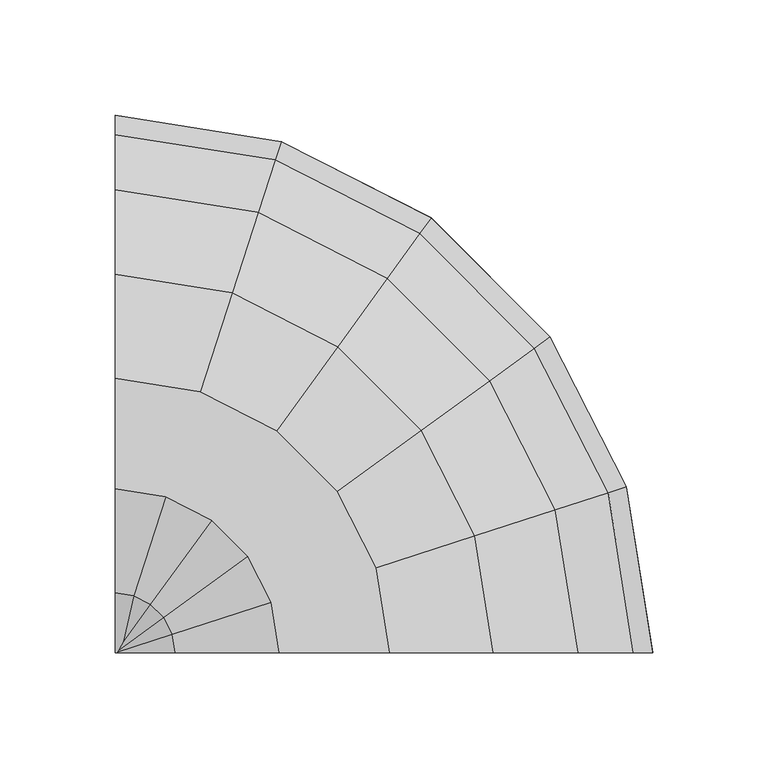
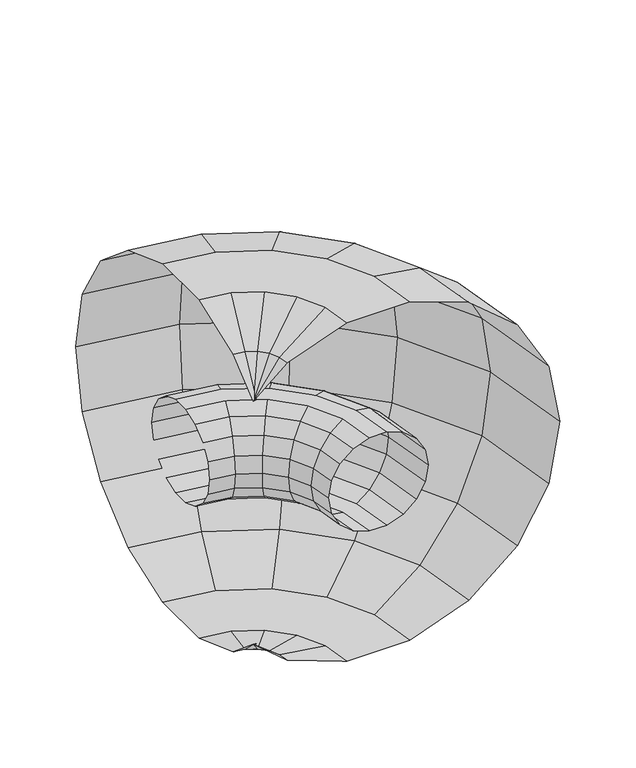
"""IFC4 building model written with IfcOpenShell, lengths in millimetres: proxy geometry, Rohrbogen 347619 : Rohrbogen 347619."""

from ifc_helpers import new_model, si_unit, origin, place, context, project, spatial, triangles, source, transform, mapped, element, save


def generic_models_42b81b73(model_context):
    return source(origin(), model_context, "Body", "Tessellation", [
        triangles([(29865.1282288, 10441.2580261, 2314.0000351), (29865.1282288, 10438.9639801, 2327.013921), (29905.5327393, 10432.5643707, 2327.013921), (29906.2419983, 10434.7467957, 2314.0000351), (29941.9840027, 10413.9910858, 2327.013921), (29943.3327576, 10415.8479492, 2314.0000351), (29970.910144, 10385.0649445, 2327.013921), (29972.7681702, 10386.4136993, 2314.0000351), (29989.483429, 10348.613681, 2327.013921), (29991.6670166, 10349.3229401, 2314.0000351), (29995.8830383, 10308.2080078, 2327.013921), (29998.1782471, 10308.2080078, 2314.0000351), (29865.1282288, 10432.3562439, 2338.4581352), (29903.4910034, 10426.2798706, 2338.4581352), (29938.1005188, 10408.6460632, 2338.4581352), (29965.5662842, 10381.1802979, 2338.4581352), (29983.2000916, 10346.5719452, 2338.4581352), (29989.2764648, 10308.2080078, 2338.4581352), (29865.1282288, 10422.233606, 2346.9522388), (29900.3632874, 10416.6525513, 2346.9522388), (29932.1497192, 10400.4570282, 2346.9522388), (29957.3760864, 10375.230661, 2346.9522388), (29973.5727722, 10343.4442291, 2346.9522388), (29979.1538269, 10308.2080078, 2346.9522388), (29865.1282288, 10409.8157593, 2351.4718758), (29896.5263123, 10404.842807, 2351.4718758), (29924.8501648, 10390.409967, 2351.4718758), (29947.330188, 10367.9311066, 2351.4718758), (29961.7618652, 10339.607254, 2351.4718758), (29966.7359802, 10308.2080078, 2351.4718758), (29865.1282288, 10396.6014496, 2351.4718758), (29892.4428406, 10392.2749695, 2351.4718758), (29917.083197, 10379.7199219, 2351.4718758), (29936.6401428, 10360.1641388, 2351.4718758), (29949.1951904, 10335.5237823, 2351.4718758), (29953.5205078, 10308.2080078, 2351.4718758), (29865.1282288, 10384.1836029, 2346.9522388), (29888.6058655, 10380.4652252, 2346.9522388), (29909.785968, 10369.6740234, 2346.9522388), (29926.5919189, 10352.8657471, 2346.9522388), (29937.3842834, 10331.6856445, 2346.9522388), (29941.1026611, 10308.2080078, 2346.9522388), (29865.1282288, 10374.060965, 2338.4581352), (29885.4781494, 10370.8379059, 2338.4581352), (29903.8351685, 10361.4838257, 2338.4581352), (29918.4040466, 10346.9149475, 2338.4581352), (29927.7569641, 10328.5579285, 2338.4581352), (29930.9800232, 10308.2080078, 2338.4581352), (29865.1282288, 10367.4532288, 2327.013921), (29883.4364136, 10364.5534058, 2327.013921), (29899.9516846, 10356.1388031, 2327.013921), (29913.0578613, 10343.0314636, 2327.013921), (29921.4736267, 10326.5161926, 2327.013921), (29924.3734497, 10308.2080078, 2327.013921), (29865.1282288, 10365.15802, 2314.0000351), (29882.7271545, 10362.3709808, 2314.0000351), (29898.6029297, 10354.2819397, 2314.0000351), (29911.2021606, 10341.6827087, 2314.0000351), (29919.2900391, 10325.8069336, 2314.0000351), (29922.078241, 10308.2080078, 2314.0000351), (29865.1282288, 10367.4532288, 2300.9861492), (29883.4364136, 10364.5534058, 2300.9861492), (29899.9516846, 10356.1388031, 2300.9861492), (29913.0578613, 10343.0314636, 2300.9861492), (29921.4736267, 10326.5161926, 2300.9861492), (29924.3734497, 10308.2080078, 2300.9861492), (29865.1282288, 10374.060965, 2289.541935), (29885.4781494, 10370.8379059, 2289.541935), (29903.8351685, 10361.4838257, 2289.541935), (29918.4040466, 10346.9149475, 2289.541935), (29927.7569641, 10328.5579285, 2289.541935), (29930.9800232, 10308.2080078, 2289.541935), (29865.1282288, 10384.1836029, 2281.047686), (29888.6058655, 10380.4652252, 2281.047686), (29909.785968, 10369.6740234, 2281.047686), (29926.5919189, 10352.8657471, 2281.047686), (29937.3842834, 10331.6856445, 2281.047686), (29941.1026611, 10308.2080078, 2281.047686), (29865.1282288, 10396.6014496, 2276.5280491), (29892.4428406, 10392.2749695, 2276.5280491), (29917.083197, 10379.7199219, 2276.5280491), (29936.6401428, 10360.1641388, 2276.5280491), (29949.1951904, 10335.5237823, 2276.5280491), (29953.5205078, 10308.2080078, 2276.5280491), (29865.1282288, 10409.8157593, 2276.5280491), (29896.5263123, 10404.842807, 2276.5280491), (29924.8501648, 10390.409967, 2276.5280491), (29947.330188, 10367.9311066, 2276.5280491), (29961.7618652, 10339.607254, 2276.5280491), (29966.7359802, 10308.2080078, 2276.5280491), (29865.1282288, 10422.233606, 2281.047686), (29900.3632874, 10416.6525513, 2281.047686), (29932.1497192, 10400.4570282, 2281.047686), (29957.3760864, 10375.230661, 2281.047686), (29973.5727722, 10343.4442291, 2281.047686), (29979.1538269, 10308.2080078, 2281.047686), (29865.1282288, 10432.3562439, 2289.541935), (29903.4910034, 10426.2798706, 2289.541935), (29938.1005188, 10408.6460632, 2289.541935), (29965.5662842, 10381.1802979, 2289.541935), (29983.2000916, 10346.5719452, 2289.541935), (29989.2764648, 10308.2080078, 2289.541935), (29865.1282288, 10438.9639801, 2300.9861492), (29905.5327393, 10432.5643707, 2300.9861492), (29941.9840027, 10413.9910858, 2300.9861492), (29970.910144, 10385.0649445, 2300.9861492), (29989.483429, 10348.613681, 2300.9861492), (29995.8830383, 10308.2080078, 2300.9861492), (29865.1282288, 10541.2588989, 2314.0000351), (29865.1282288, 10532.932663, 2361.2159031), (29934.5728271, 10521.9344971, 2361.2159031), (29937.1447632, 10529.8526184, 2314.0000351), (29997.2178406, 10490.0143524, 2361.2159031), (30002.1105652, 10496.7499878, 2314.0000351), (30046.9334106, 10440.2976196, 2361.2159031), (30053.6702087, 10445.191507, 2314.0000351), (30078.854718, 10377.6526062, 2361.2159031), (30086.7728394, 10380.2245422, 2314.0000351), (30089.8517212, 10308.2080078, 2361.2159031), (30098.1791199, 10308.2080078, 2314.0000351), (29865.1282288, 10508.9608704, 2402.7367699), (29927.1639771, 10499.134726, 2402.7367699), (29983.1280029, 10470.6201874, 2402.7367699), (30027.5392456, 10426.207782, 2402.7367699), (30056.0537842, 10370.2437561, 2402.7367699), (30065.8810913, 10308.2080078, 2402.7367699), (29865.1282288, 10472.2328796, 2433.5548016), (29915.8135071, 10464.2054626, 2433.5548016), (29961.538623, 10440.9068848, 2433.5548016), (29997.8271057, 10404.6195648, 2433.5548016), (30021.1256836, 10358.8944489, 2433.5548016), (30029.1531006, 10308.2080078, 2433.5548016), (29865.1282288, 10427.1809784, 2449.9527832), (29901.8934265, 10421.358078, 2449.9527832), (29935.058844, 10404.4591095, 2449.9527832), (29961.3781677, 10378.138623, 2449.9527832), (29978.2771362, 10344.9732056, 2449.9527832), (29984.1000366, 10308.2080078, 2449.9527832), (29865.1282288, 10379.2362305, 2449.9527832), (29887.0757263, 10375.7596985, 2449.9527832), (29906.8768433, 10365.6707794, 2449.9527832), (29922.5898376, 10349.957785, 2449.9527832), (29932.6799194, 10330.1566681, 2449.9527832), (29936.1564514, 10308.2080078, 2449.9527832), (29865.1282288, 10334.1831665, 2433.5548016), (29873.1556458, 10332.9123138, 2433.5548016), (29880.3947388, 10329.2230042, 2433.5548016), (29886.1432251, 10323.4756805, 2433.5548016), (29889.8313721, 10316.2354248, 2433.5548016), (29891.1033875, 10308.2080078, 2433.5548016), (29865.1282288, 10308.2080078, 2411.7590389), (29867.5629639, 10308.2080078, 2412.0825657), (29867.5629639, 10308.2080078, 2215.9175045), (29873.1556458, 10332.9123138, 2194.4451233), (29865.1282288, 10308.2080078, 2216.2410313), (29865.1282288, 10334.1831665, 2194.4451233), (29880.3947388, 10329.2230042, 2194.4451233), (29886.1432251, 10323.4756805, 2194.4451233), (29889.8313721, 10316.2354248, 2194.4451233), (29891.1033875, 10308.2080078, 2194.4451233), (29865.1282288, 10379.2362305, 2178.047287), (29887.0757263, 10375.7596985, 2178.047287), (29906.8768433, 10365.6707794, 2178.047287), (29922.5898376, 10349.957785, 2178.047287), (29932.6799194, 10330.1566681, 2178.047287), (29936.1564514, 10308.2080078, 2178.047287), (29865.1282288, 10427.1809784, 2178.047287), (29901.8934265, 10421.358078, 2178.047287), (29935.058844, 10404.4591095, 2178.047287), (29961.3781677, 10378.138623, 2178.047287), (29978.2771362, 10344.9732056, 2178.047287), (29984.1000366, 10308.2080078, 2178.047287), (29865.1282288, 10472.2328796, 2194.4451233), (29915.8135071, 10464.2054626, 2194.4451233), (29961.538623, 10440.9068848, 2194.4451233), (29997.8271057, 10404.6195648, 2194.4451233), (30021.1256836, 10358.8944489, 2194.4451233), (30029.1531006, 10308.2080078, 2194.4451233), (29865.1282288, 10508.9608704, 2225.263155), (29927.1639771, 10499.134726, 2225.263155), (29983.1280029, 10470.6201874, 2225.263155), (30027.5392456, 10426.207782, 2225.263155), (30056.0537842, 10370.2437561, 2225.263155), (30065.8810913, 10308.2080078, 2225.263155), (29865.1282288, 10532.932663, 2266.7841671), (29934.5728271, 10521.9344971, 2266.7841671), (29997.2178406, 10490.0143524, 2266.7841671), (30046.9334106, 10440.2976196, 2266.7841671), (30078.854718, 10377.6526062, 2266.7841671), (30089.8517212, 10308.2080078, 2266.7841671)], [[4, 1, 3], [2, 3, 1], [6, 4, 5], [3, 5, 4], [8, 6, 5], [5, 7, 8], [10, 8, 7], [7, 9, 10], [12, 10, 9], [9, 11, 12], [3, 2, 13], [13, 14, 3], [5, 3, 14], [14, 15, 5], [7, 5, 15], [15, 16, 7], [9, 7, 17], [16, 17, 7], [11, 9, 18], [17, 18, 9], [14, 13, 19], [19, 20, 14], [15, 14, 21], [20, 21, 14], [16, 15, 22], [21, 22, 15], [17, 16, 22], [22, 23, 17], [18, 17, 23], [23, 24, 18], [20, 19, 26], [25, 26, 19], [21, 20, 27], [26, 27, 20], [22, 21, 28], [27, 28, 21], [23, 22, 29], [28, 29, 22], [24, 23, 30], [29, 30, 23], [26, 25, 31], [31, 32, 26], [27, 26, 32], [32, 33, 27], [28, 27, 33], [33, 34, 28], [29, 28, 35], [34, 35, 28], [30, 29, 36], [35, 36, 29], [32, 31, 37], [37, 38, 32], [33, 32, 38], [38, 39, 33], [34, 33, 39], [39, 40, 34], [35, 34, 41], [40, 41, 34], [36, 35, 42], [41, 42, 35], [38, 37, 43], [43, 44, 38], [39, 38, 45], [44, 45, 38], [40, 39, 46], [45, 46, 39], [41, 40, 46], [46, 47, 41], [42, 41, 47], [47, 48, 42], [44, 43, 50], [49, 50, 43], [45, 44, 50], [50, 51, 45], [46, 45, 51], [51, 52, 46], [47, 46, 53], [52, 53, 46], [48, 47, 54], [53, 54, 47], [50, 49, 55], [55, 56, 50], [51, 50, 57], [56, 57, 50], [52, 51, 57], [57, 58, 52], [53, 52, 58], [58, 59, 53], [54, 53, 59], [59, 60, 54], [56, 55, 62], [61, 62, 55], [57, 56, 63], [62, 63, 56], [58, 57, 64], [63, 64, 57], [59, 58, 65], [64, 65, 58], [60, 59, 65], [65, 66, 60], [62, 61, 68], [67, 68, 61], [63, 62, 68], [68, 69, 63], [64, 63, 70], [69, 70, 63], [65, 64, 71], [70, 71, 64], [66, 65, 71], [71, 72, 66], [68, 67, 73], [73, 74, 68], [69, 68, 74], [74, 75, 69], [70, 69, 76], [75, 76, 69], [71, 70, 77], [76, 77, 70], [72, 71, 78], [77, 78, 71], [74, 73, 79], [79, 80, 74], [75, 74, 81], [80, 81, 74], [76, 75, 82], [81, 82, 75], [77, 76, 82], [82, 83, 77], [78, 77, 83], [83, 84, 78], [80, 79, 86], [85, 86, 79], [81, 80, 87], [86, 87, 80], [82, 81, 88], [87, 88, 81], [83, 82, 89], [88, 89, 82], [84, 83, 90], [89, 90, 83], [86, 85, 92], [91, 92, 85], [87, 86, 92], [92, 93, 87], [88, 87, 93], [93, 94, 88], [89, 88, 94], [94, 95, 89], [90, 89, 95], [95, 96, 90], [92, 91, 98], [97, 98, 91], [93, 92, 99], [98, 99, 92], [94, 93, 99], [99, 100, 94], [95, 94, 101], [100, 101, 94], [96, 95, 102], [101, 102, 95], [98, 97, 103], [103, 104, 98], [99, 98, 104], [104, 105, 99], [100, 99, 105], [105, 106, 100], [101, 100, 106], [106, 107, 101], [102, 101, 107], [107, 108, 102], [104, 103, 4], [1, 4, 103], [105, 104, 6], [4, 6, 104], [106, 105, 8], [6, 8, 105], [107, 106, 10], [8, 10, 106], [108, 107, 12], [10, 12, 107], [112, 109, 110], [110, 111, 112], [114, 112, 111], [111, 113, 114], [116, 114, 115], [113, 115, 114], [118, 116, 117], [115, 117, 116], [120, 118, 119], [117, 119, 118], [111, 110, 122], [121, 122, 110], [113, 111, 123], [122, 123, 111], [115, 113, 123], [123, 124, 115], [117, 115, 124], [124, 125, 117], [119, 117, 126], [125, 126, 117], [122, 121, 127], [127, 128, 122], [123, 122, 128], [128, 129, 123], [124, 123, 129], [129, 130, 124], [125, 124, 131], [130, 131, 124], [126, 125, 132], [131, 132, 125], [128, 127, 134], [133, 134, 127], [129, 128, 135], [134, 135, 128], [130, 129, 135], [135, 136, 130], [131, 130, 137], [136, 137, 130], [132, 131, 138], [137, 138, 131], [134, 133, 139], [139, 140, 134], [135, 134, 140], [140, 141, 135], [136, 135, 142], [141, 142, 135], [137, 136, 143], [142, 143, 136], [138, 137, 143], [143, 144, 138], [140, 139, 145], [145, 146, 140], [141, 140, 146], [146, 147, 141], [142, 141, 148], [147, 148, 141], [143, 142, 148], [148, 149, 143], [144, 143, 150], [149, 150, 143], [151, 146, 152], [151, 152, 145], [146, 145, 152], [147, 146, 151], [148, 147, 151], [149, 148, 151], [150, 149, 151], [155, 153, 154], [156, 154, 153], [153, 155, 156], [154, 157, 155], [155, 157, 158], [158, 159, 155], [159, 160, 155], [154, 156, 162], [161, 162, 156], [157, 154, 163], [162, 163, 154], [158, 157, 163], [163, 164, 158], [159, 158, 165], [164, 165, 158], [160, 159, 166], [165, 166, 159], [162, 161, 168], [167, 168, 161], [163, 162, 169], [168, 169, 162], [164, 163, 170], [169, 170, 163], [165, 164, 170], [170, 171, 165], [166, 165, 172], [171, 172, 165], [168, 167, 174], [173, 174, 167], [169, 168, 174], [174, 175, 169], [170, 169, 175], [175, 176, 170], [171, 170, 176], [176, 177, 171], [172, 171, 177], [177, 178, 172], [174, 173, 180], [179, 180, 173], [175, 174, 181], [180, 181, 174], [176, 175, 182], [181, 182, 175], [177, 176, 182], [182, 183, 177], [178, 177, 184], [183, 184, 177], [180, 179, 186], [185, 186, 179], [181, 180, 187], [186, 187, 180], [182, 181, 188], [187, 188, 181], [183, 182, 188], [188, 189, 183], [184, 183, 190], [189, 190, 183], [186, 185, 112], [109, 112, 185], [187, 186, 112], [112, 114, 187], [188, 187, 114], [114, 116, 188], [189, 188, 116], [116, 118, 189], [190, 189, 118], [118, 120, 190]], closed=False),
    ])


if __name__ == "__main__":
    model = new_model("IFC4")
    model_context = context("Model", 3, world=origin())
    ifc_project = project(units=[si_unit("LENGTHUNIT", "METRE", prefix="MILLI")], contexts=[model_context])
    site = spatial("IfcSite", under=ifc_project)
    building = spatial("IfcBuilding", under=site)
    placement = place(None, origin())
    generic_models_shape = generic_models_42b81b73(model_context)
    element("IfcBuildingElementProxy", 1, Name="Rohrbogen 347619 : Rohrbogen 347619", ObjectType="Rohrbogen 347619 : Rohrbogen 347619", at=placement, inside=building, context=model_context, shape_type="MappedRepresentation", body=[
        mapped(generic_models_shape, transform((0.0, 0.0, 0.0), x_axis=(1.0, 0.0, 0.0), y_axis=(0.0, 1.0, 0.0), z_axis=(0.0, 0.0, 1.0))),
    ])
    save(model, "model.ifc")
